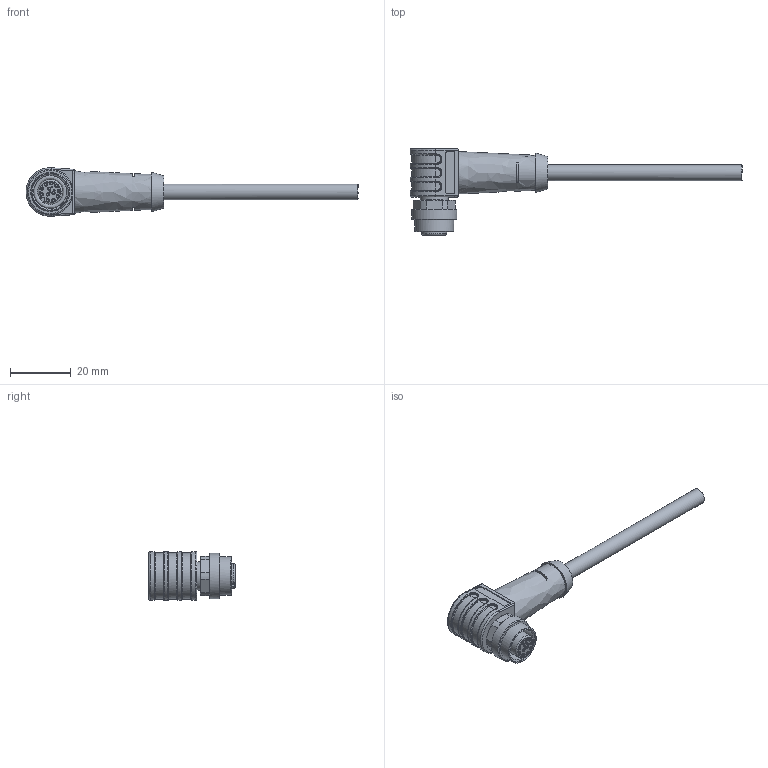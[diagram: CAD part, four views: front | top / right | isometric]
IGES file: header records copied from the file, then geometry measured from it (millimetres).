
Global section: file name: 153-13644_C L12_3FW-S-xM-PUR; native system: Autodesk Inventor 2018; preprocessor: unknown; date: 20191106.120047; units: millimetre
Bounding box: 109.69 x 28.7 x 15.97 mm (x, y, z)
Volume: 9879.7 mm3; surface area: 4926.1 mm2
Topology: 1 solids, 1 shells, 399 faces, 1025 edges, 672 vertices
Faces by surface type: bspline 399
